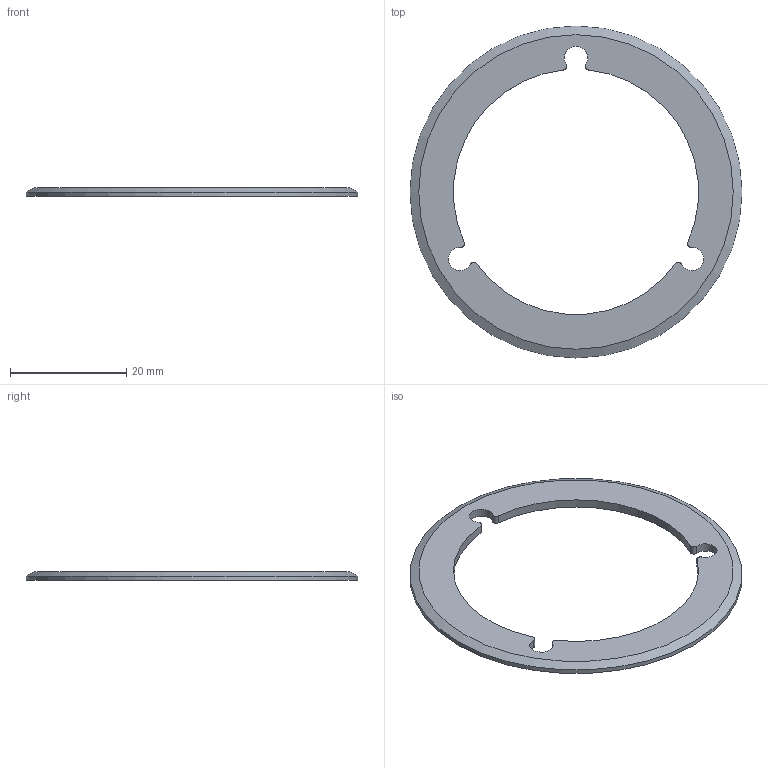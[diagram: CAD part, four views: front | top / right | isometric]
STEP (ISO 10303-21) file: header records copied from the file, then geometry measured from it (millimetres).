
FILE_DESCRIPTION(/* description */ ('CAx-IF Rec.Pracs.---Representation and Presentation of Product Manufacturing Information (PMI)---4.0---2014-10-13','CAx-IF Rec.Pracs.---3D Tessellated Geometry---0.4---2014-09-14','2;1'),/* implementation_level */ '2;1');
FILE_NAME(/* name */ 'qc1_p59',/* time_stamp */ '2026-07-26T03:08:03+03:00',/* author */ (''),/* organization */ (''),/* preprocessor_version */ 'ST-DEVELOPER v19.4',/* originating_system */ 'SIEMENS PLM Software NX2306.1700',/* authorisation */ $);
FILE_SCHEMA (('AP242_MANAGED_MODEL_BASED_3D_ENGINEERING_MIM_LF { 1 0 10303 442 3 1 4 }'));
Length unit declared in the file: millimetre
Products named in the file (1): qc1_p59
Bounding box: 57 x 57 x 1.5 mm (x, y, z)
Volume: 1580.5 mm3; surface area: 2634.2 mm2
Topology: 1 solids, 1 shells, 16 faces, 41 edges, 27 vertices
Faces by surface type: cylinder 13, plane 2, cone 1
Full cylindrical faces by diameter (mm): 57 x1
Entity records: 520 total; most frequent: DIRECTION 100, CARTESIAN_POINT 83, ORIENTED_EDGE 78, AXIS2_PLACEMENT_3D 44, EDGE_CURVE 39, VERTEX_POINT 27, CIRCLE 27, EDGE_LOOP 20
